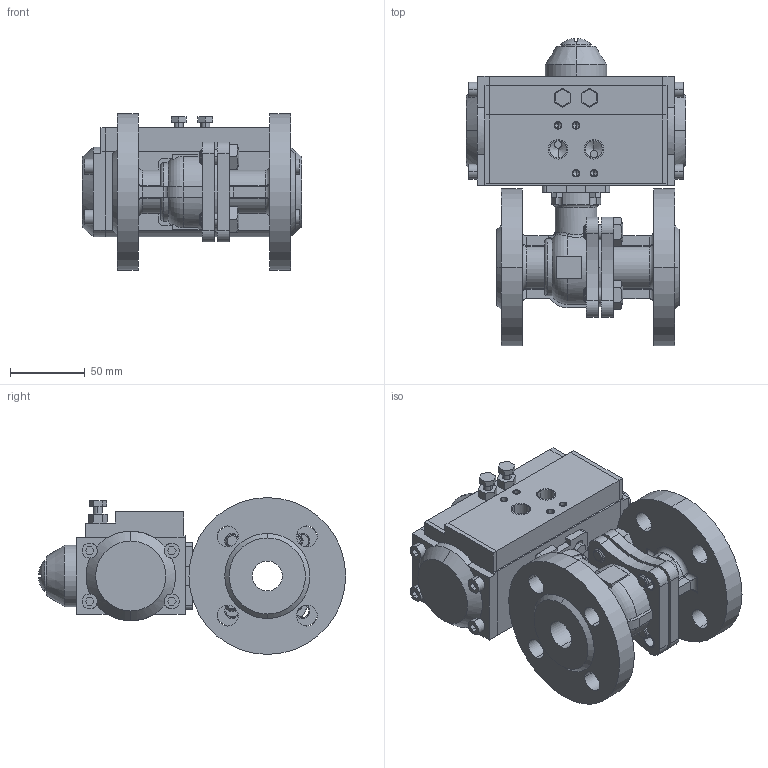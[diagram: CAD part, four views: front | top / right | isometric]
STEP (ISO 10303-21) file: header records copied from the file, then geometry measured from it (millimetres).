
FILE_DESCRIPTION((''),'2;1');
FILE_NAME('BV-22F_RPA_ASM','2024-09-11T',('USER'),(''),'PRO/ENGINEER BY PARAMETRIC TECHNOLOGY CORPORATION, 2011220','PRO/ENGINEER BY PARAMETRIC TECHNOLOGY CORPORATION, 2011220','');
FILE_SCHEMA(('CONFIG_CONTROL_DESIGN'));
Length unit declared in the file: millimetre
Products named in the file (12): KORPUS_KRAN_FL; B-7798-M10-20; SB_KRAN_FL_ASM; KORPUS_PNEVMOPRIVOD; KOLCO_14_GOST13942; KRISKA_VERX; VINT; KRISKA_LEFT; KRISKA_RIGHT; SB_PNEVMOPRIVOD_ASM; BOLT; BV-22F_RPA_ASM
Assembly tree (17 placements, depth 3):
  BV-22F_RPA_ASM
    SB_KRAN_FL_ASM
      KORPUS_KRAN_FL
      B-7798-M10-20  x4
    SB_PNEVMOPRIVOD_ASM
      KORPUS_PNEVMOPRIVOD
      KOLCO_14_GOST13942
      KRISKA_VERX
      VINT
      KRISKA_LEFT
      KRISKA_RIGHT
    BOLT  x4
Bounding box: 147 x 205.93 x 105 mm (x, y, z)
Volume: 1055754.8 mm3; surface area: 180431.6 mm2
Topology: 15 solids, 49 shells, 790 faces, 2016 edges, 1301 vertices
Faces by surface type: plane 393, cylinder 286, cone 74, torus 19, bspline 16, sphere 2
Entity records: 22343 total; most frequent: CARTESIAN_POINT 4981, DIRECTION 3715, ORIENTED_EDGE 3372, EDGE_CURVE 1744, AXIS2_PLACEMENT_3D 1352, VERTEX_POINT 1151, VECTOR 1011, LINE 1011
